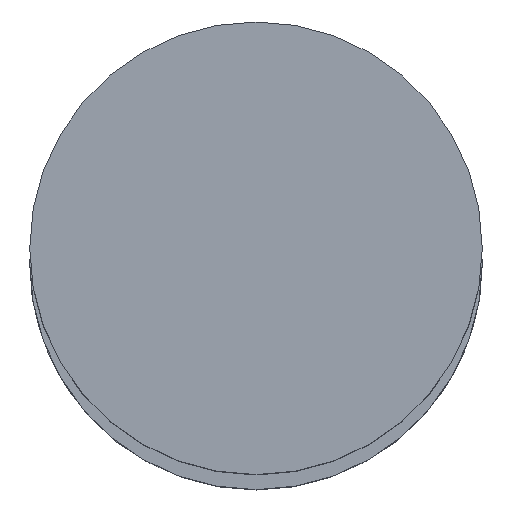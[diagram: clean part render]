
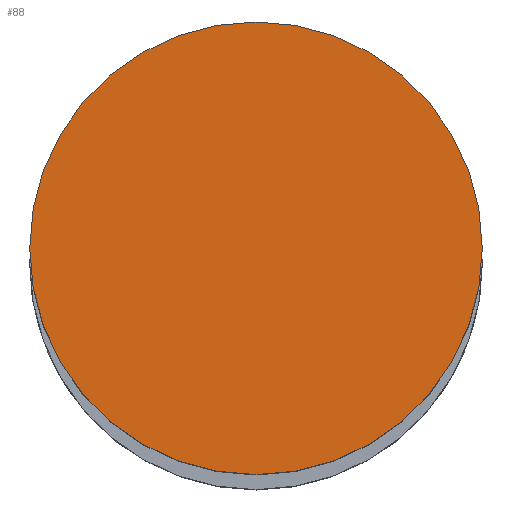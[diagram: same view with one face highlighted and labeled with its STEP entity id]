
A CAD part, top view. The second image highlights one B-rep face of the part: STEP entity #88.
In plain terms, the highlighted planar face has unit normal (0, 0, 1).
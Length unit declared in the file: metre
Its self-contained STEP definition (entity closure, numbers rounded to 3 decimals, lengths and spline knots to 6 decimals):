
#88=ADVANCED_FACE('25:217',(#172),#173,.T.);
#172=FACE_OUTER_BOUND('',#259,.T.);
#173=PLANE('',#260);
#259=EDGE_LOOP('',(#406,#407));
#260=AXIS2_PLACEMENT_3D('',#408,#409,#410);
#406=ORIENTED_EDGE('',*,*,#543,.F.);
#407=ORIENTED_EDGE('',*,*,#536,.F.);
#408=CARTESIAN_POINT('',(0.0,0.0,3.254));
#409=DIRECTION('',(0.0,0.0,1.0));
#410=DIRECTION('',(1.0,0.0,0.0));
#536=EDGE_CURVE('',#647,#649,#650,.F.);
#543=EDGE_CURVE('',#649,#647,#658,.F.);
#647=VERTEX_POINT('',#782);
#649=VERTEX_POINT('',#785);
#650=CIRCLE('',#786,0.0155);
#658=CIRCLE('',#797,0.0155);
#782=CARTESIAN_POINT('',(0.015408,0.000095,3.254));
#785=CARTESIAN_POINT('',(-0.015592,0.000095,3.254));
#786=AXIS2_PLACEMENT_3D('',#907,#908,#909);
#797=AXIS2_PLACEMENT_3D('',#916,#917,#918);
#907=CARTESIAN_POINT('',(-0.000092,0.000095,3.254));
#908=DIRECTION('',(0.0,0.0,1.0));
#909=DIRECTION('',(1.0,0.0,0.0));
#916=CARTESIAN_POINT('',(-0.000092,0.000095,3.254));
#917=DIRECTION('',(0.0,0.0,1.0));
#918=DIRECTION('',(1.0,0.0,0.0));
